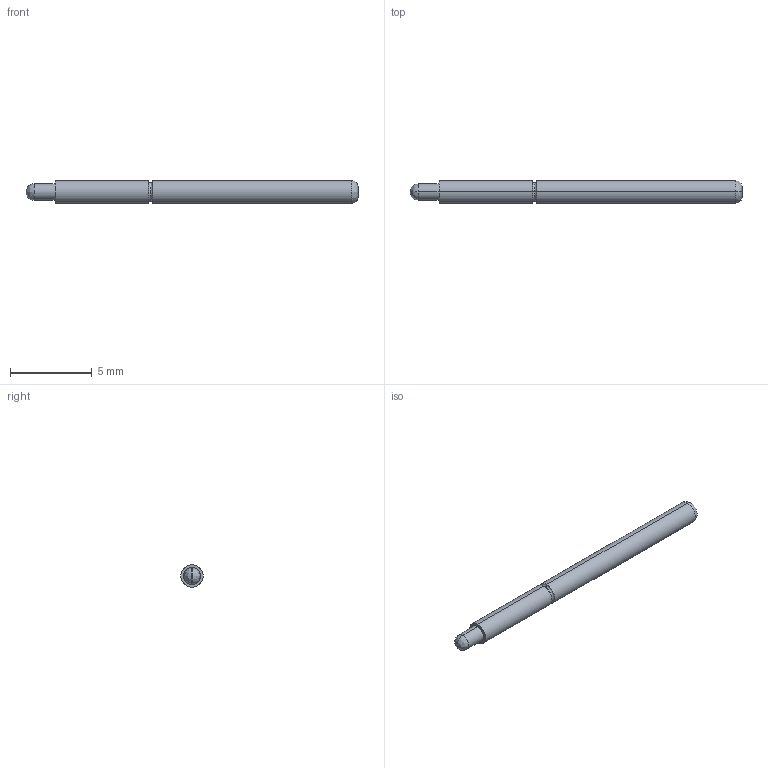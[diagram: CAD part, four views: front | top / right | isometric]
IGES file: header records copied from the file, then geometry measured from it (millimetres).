
Start section: SolidWorks IGES file using analytic representation for surfaces
Global section: file name: O:\PYLON\IGES FILES\P3158\P3158G-1R1S FULL.IGS; native system: SolidWorks 2015; preprocessor: SolidWorks 2015; author: kgolden; date: 171020.061241; units: inch
Bounding box: 20.32 x 1.37 x 1.37 mm (x, y, z)
Surface area: 92.5 mm2 (no closed solid volume)
Topology: 0 solids, 0 shells, 19 faces, 120 edges, 120 vertices
Faces by surface type: bspline 11, revolution 8
